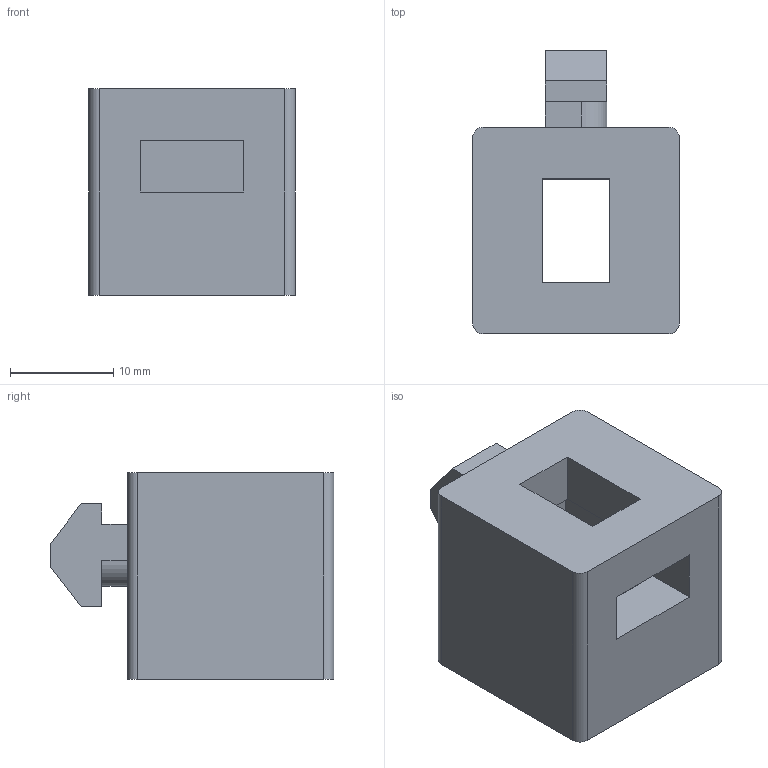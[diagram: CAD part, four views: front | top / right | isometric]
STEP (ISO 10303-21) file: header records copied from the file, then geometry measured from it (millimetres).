
FILE_DESCRIPTION (( 'STEP AP203' ), '1' );
FILE_NAME ('93-CE-PM-30G.STEP', '2015-07-09T08:34:21', ( '' ), ( '' ), 'SwSTEP 2.0', 'SolidWorks 2013', '' );
FILE_SCHEMA (( 'CONFIG_CONTROL_DESIGN' ));
Length unit declared in the file: millimetre
Products named in the file (1): 93-CE-PM-30G
Bounding box: 20 x 27.5 x 20 mm (x, y, z)
Volume: 6470.4 mm3; surface area: 3329.6 mm2
Topology: 1 solids, 1 shells, 36 faces, 96 edges, 64 vertices
Faces by surface type: plane 30, cylinder 6
Entity records: 1197 total; most frequent: CARTESIAN_POINT 197, ORIENTED_EDGE 192, DIRECTION 182, EDGE_CURVE 96, VECTOR 84, LINE 84, VERTEX_POINT 64, AXIS2_PLACEMENT_3D 49
